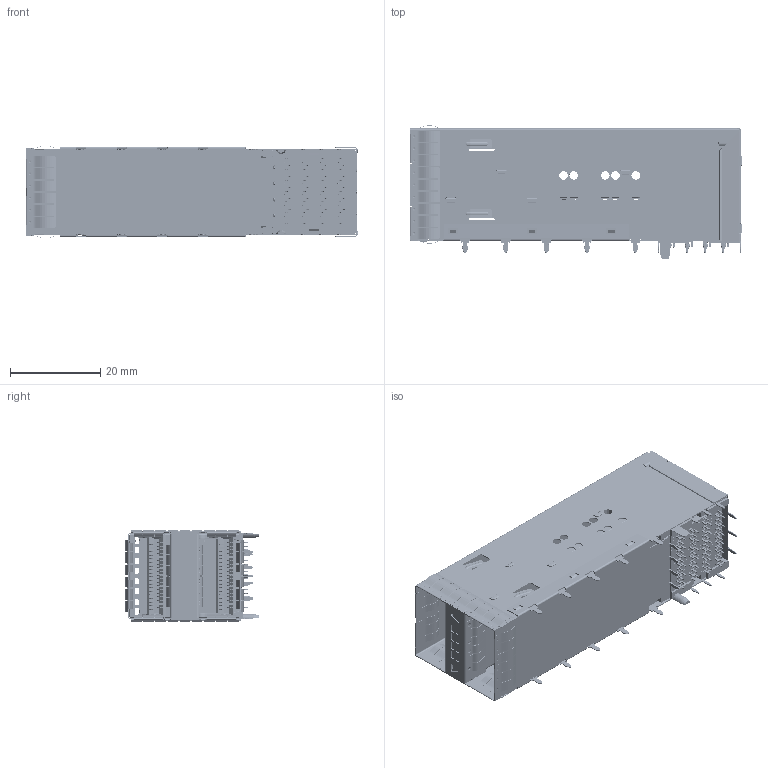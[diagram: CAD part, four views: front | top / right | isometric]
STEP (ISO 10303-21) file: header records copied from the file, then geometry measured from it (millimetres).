
FILE_DESCRIPTION (( 'STEP AP214' ), '1' );
FILE_NAME ('SZA0-0000310100-0000-X.STEP', '2021-06-28T03:49:59', ( '' ), ( '' ), 'SwSTEP 2.0', 'SolidWorks 2012', '' );
FILE_SCHEMA (( 'AUTOMOTIVE_DESIGN' ));
Length unit declared in the file: millimetre
Products named in the file (12): SZA0-M110; SZC0-M120_w\o heatsink+w\ outer lightpipe D-U-ass''y before bent; SS20-S150_1x1-Top Spring Ass''y; SZC0-S140_w\outer lightpipe ass''y1; Conn+lightpipe-1_w\2lightpipe-outer(SZA0 Conn); Lightpipe Cover20200610_w\2Lightpipe; SZA0-S120-1_4pin; outer lightpipe_for 2lightpipe; SZ10-S130_2xN side spring ass''y; SZA0-S110-1_2.25-w\o lightpipe+散熱孔1 ass''y; SZ10-S130_1x1 top&bottom spring ass''y; SZA0-0000310100-0000-X
Assembly tree (14 placements, depth 3):
  SZA0-0000310100-0000-X
    SZA0-S110-1_2.25-w\o lightpipe+散熱孔1 ass''y
    SZ10-S130_1x1 top&bottom spring ass''y  x2
    SZ10-S130_2xN side spring ass''y  x2
    SZA0-S120-1_4pin
    Conn+lightpipe-1_w\2lightpipe-outer(SZA0 Conn)
      outer lightpipe_for 2lightpipe
      SZA0-M110
      Lightpipe Cover20200610_w\2Lightpipe
    SZC0-M120_w\o heatsink+w\ outer lightpipe D-U-ass''y before bent
      SZC0-S140_w\outer lightpipe ass''y1
      SS20-S150_1x1-Top Spring Ass''y  x2
Bounding box: 73.53 x 29.52 x 20.55 mm (x, y, z)
Volume: 6609.5 mm3; surface area: 34896.7 mm2
Topology: 204 solids, 204 shells, 15671 faces, 42687 edges, 27242 vertices
Faces by surface type: plane 8906, cylinder 4273, bspline 1948, torus 374, sphere 152, cone 18
Entity records: 613747 total; most frequent: CARTESIAN_POINT 127271, ORIENTED_EDGE 80720, DIRECTION 75642, EDGE_CURVE 40360, LINE 26020, VECTOR 26020, VERTEX_POINT 25890, AXIS2_PLACEMENT_3D 24811
